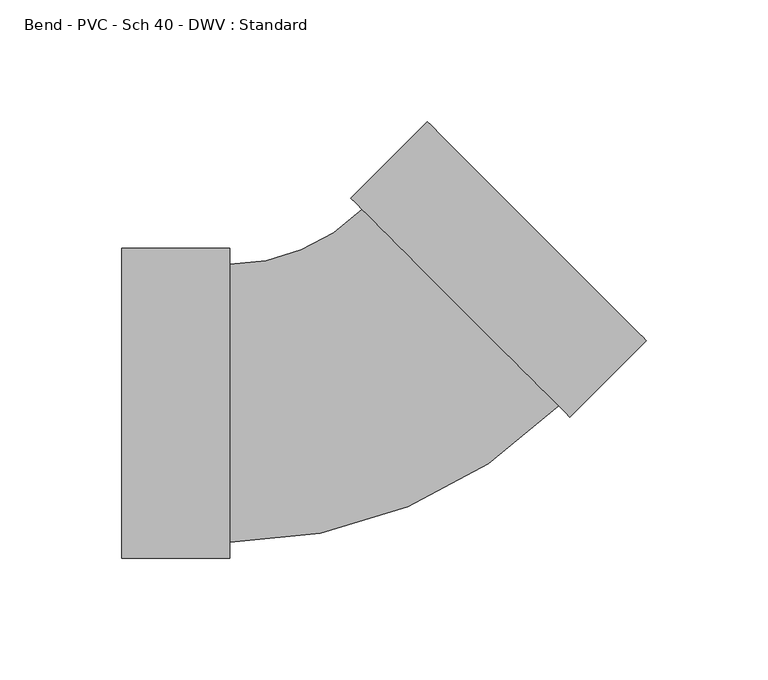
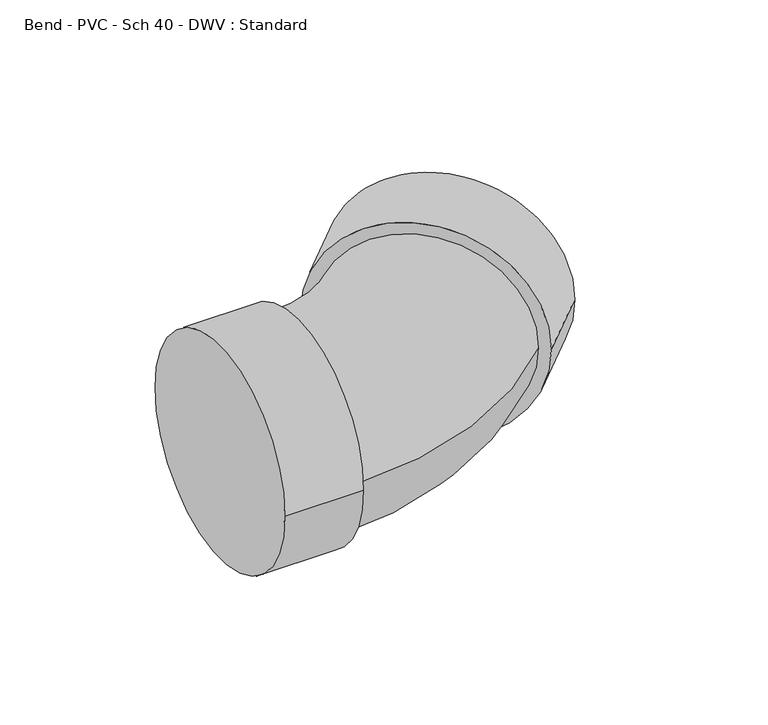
"""IFC4 building model written with IfcOpenShell, lengths in millimetres: pipe fitting geometry, Bend - PVC - Sch 40 - DWV : Standard."""

from ifc_helpers import new_model, si_unit, point, frame, origin, place, context, project, spatial, circle_curve, ellipse_curve, trimmed, source, transform, mapped, element, save
from ifc_brep_helpers import plane_surface, cylinder_surface, revolved_surface, advanced_brep


def bend_pvc_sch_40_dwv_standard_85473d5f(model_context):
    return source(origin(), model_context, "Body", "AdvancedBrep", [
        advanced_brep(
        [(-100.0252, -63.754, 0.0), (-100.0252, 63.754, 0.0), (-55.5752, -63.754, 0.0), (-55.5752, 63.754, 0.0), (-55.5752, -57.15, 0.0), (-55.5752, 57.15, 0.0), (-1.1093249, 79.7088123, 0.0), (79.7086942, -1.1177786, 0.0), (84.3781797, -5.7877594, 0.0), (-5.7788104, 84.3787931, 0.0), (115.8107428, 25.6414702, 0.0), (25.6537527, 115.8080227, 0.0)],
        [
            (0, 1, circle_curve(frame((-100.0252, 0.0, 0.0), z_axis=(-1.0, 0.0, 0.0), x_axis=(0.0, 1.0, 0.0)), 63.754)),
            (1, 0, circle_curve(frame((-100.0252, 0.0, 0.0), z_axis=(-1.0, 0.0, 0.0), x_axis=(0.0, 1.0, 0.0)), 63.754)),
            (2, 3, circle_curve(frame((-55.5752, 0.0, 0.0), z_axis=(1.0, 0.0, 0.0), x_axis=(0.0, 1.0, 0.0)), 63.754)),
            (3, 2, circle_curve(frame((-55.5752, 0.0, 0.0), z_axis=(1.0, 0.0, 0.0), x_axis=(0.0, 1.0, 0.0)), 63.754)),
            (4, 5, circle_curve(frame((-55.5752, 0.0, 0.0), z_axis=(-1.0, 0.0, 0.0), x_axis=(0.0, 1.0, 0.0)), 57.15)),
            (5, 4, circle_curve(frame((-55.5752, 0.0, 0.0), z_axis=(-1.0, 0.0, 0.0), x_axis=(0.0, 1.0, 0.0)), 57.15)),
            (0, 2),
            (3, 1),
            (6, 5, circle_curve(frame((-55.5752, 134.1804642, 0.0), z_axis=(0.0, 0.0, -1.0), x_axis=(0.0, -1.0, 0.0)), 77.0304642)),
            (4, 7, circle_curve(frame((-55.5752, 134.1804642, 0.0), z_axis=(0.0, 0.0, 1.0), x_axis=(0.0, -1.0, 0.0)), 191.3304642)),
            (7, 6, circle_curve(frame((39.2996846, 39.2955168, 0.0), z_axis=(-0.7071442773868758, -0.7070692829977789, 0.0), x_axis=(-0.7070692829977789, 0.7071442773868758, 0.0)), 57.15)),
            (6, 7, circle_curve(frame((39.2996846, 39.2955168, 0.0), z_axis=(-0.7071442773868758, -0.7070692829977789, 0.0), x_axis=(-0.7070692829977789, 0.7071442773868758, 0.0)), 57.15)),
            (8, 9, circle_curve(frame((39.2996846, 39.2955168, 0.0), z_axis=(-0.7071442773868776, -0.7070692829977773, 0.0), x_axis=(-0.7070692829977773, 0.7071442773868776, 0.0)), 63.754)),
            (9, 8, circle_curve(frame((39.2996846, 39.2955168, 0.0), z_axis=(-0.7071442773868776, -0.7070692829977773, 0.0), x_axis=(-0.7070692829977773, 0.7071442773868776, 0.0)), 63.754)),
            (10, 11, circle_curve(frame((70.7322478, 70.7247464, 0.0), z_axis=(0.7071442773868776, 0.7070692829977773, 0.0), x_axis=(-0.7070692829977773, 0.7071442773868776, 0.0)), 63.754)),
            (11, 10, circle_curve(frame((70.7322478, 70.7247464, 0.0), z_axis=(0.7071442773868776, 0.7070692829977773, 0.0), x_axis=(-0.7070692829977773, 0.7071442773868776, 0.0)), 63.754)),
            (8, 10),
            (11, 9),
        ],
        [
            plane_surface(frame((-100.0252, 0.0, 0.0), z_axis=(-1.0, 0.0, 0.0), x_axis=(0.0, 0.0, 1.0))),
            plane_surface(frame((-55.5752, 0.0, 0.0), z_axis=(1.0, 0.0, 0.0), x_axis=(0.0, 0.0, 1.0))),
            cylinder_surface(frame((-100.0252, 0.0, 0.0), z_axis=(-1.0, 0.0, 0.0), x_axis=(0.0, 1.0, 0.0)), 63.754),
            revolved_surface(trimmed(ellipse_curve(frame((-55.5752, 0.0, 0.0), z_axis=(-1.0, 0.0, 0.0), x_axis=(0.0, 1.0, 0.0)), 57.15, 57.15), [point((-55.5752, -57.15, 0.0))], [point((-55.5752, 57.15, 0.0))], True, "CARTESIAN"), (-55.5752, 134.1804642, 0.0), (0.0, 0.0, 1.0)),
            revolved_surface(trimmed(ellipse_curve(frame((-55.5752, 0.0, 0.0), z_axis=(-1.0, 0.0, 0.0), x_axis=(0.0, 1.0, 0.0)), 57.15, 57.15), [point((-55.5752, 57.15, 0.0))], [point((-55.5752, -57.15, 0.0))], True, "CARTESIAN"), (-55.5752, 134.1804642, 0.0), (0.0, 0.0, 1.0)),
            plane_surface(frame((39.2996846, 39.2955168, 0.0), z_axis=(-0.7071442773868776, -0.7070692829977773, 0.0), x_axis=(0.0, 0.0, 1.0))),
            plane_surface(frame((70.7322478, 70.7247464, 0.0), z_axis=(0.7071442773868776, 0.7070692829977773, 0.0), x_axis=(0.0, 0.0, 1.0))),
            cylinder_surface(frame((39.2996846, 39.2955168, 0.0), z_axis=(-0.7071442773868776, -0.7070692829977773, 0.0), x_axis=(-0.7070692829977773, 0.7071442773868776, 0.0)), 63.754),
        ],
        [
            (0, [[1, 2]]),
            (1, [[3, 4], [5, 6]]),
            (2, [[-1, 7, -4, 8]]),
            (2, [[-2, -8, -3, -7]]),
            (3, [[9, -5, 10, 11]]),
            (4, [[-9, 12, -10, -6]]),
            (5, [[13, 14], [-11, -12]]),
            (6, [[15, 16]]),
            (7, [[-13, 17, -16, 18]]),
            (7, [[-14, -18, -15, -17]]),
        ],
    ),
    ])


if __name__ == "__main__":
    model = new_model("IFC4")
    model_context = context("Model", 3, world=origin())
    ifc_project = project(units=[si_unit("LENGTHUNIT", "METRE", prefix="MILLI")], contexts=[model_context])
    site = spatial("IfcSite", under=ifc_project)
    building = spatial("IfcBuilding", under=site)
    placement = place(None, origin())
    bend_pvc_sch_40_dwv_standard_shape = bend_pvc_sch_40_dwv_standard_85473d5f(model_context)
    element("IfcPipeFitting", 1, ObjectType="Bend - PVC - Sch 40 - DWV : Standard", at=placement, inside=building, context=model_context, shape_type="MappedRepresentation", body=[
        mapped(bend_pvc_sch_40_dwv_standard_shape, transform((0.0, 0.0, 0.0), x_axis=(1.0, 0.0, 0.0), y_axis=(0.0, 1.0, 0.0), z_axis=(0.0, 0.0, 1.0))),
    ])
    save(model, "model.ifc")
